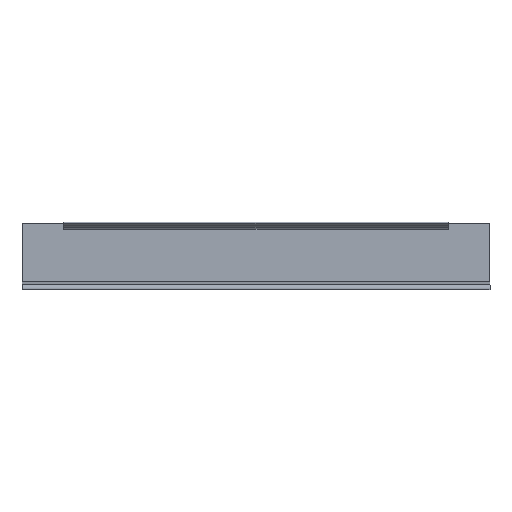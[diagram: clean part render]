
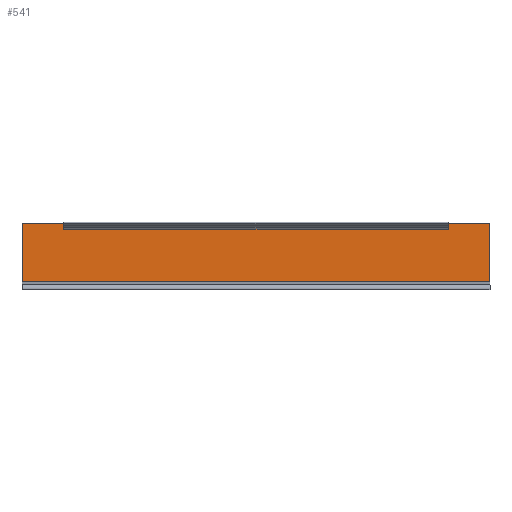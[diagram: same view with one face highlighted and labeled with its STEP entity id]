
A CAD part, left-side view. The second image highlights one B-rep face of the part: STEP entity #541.
In plain terms, the highlighted planar face has unit normal (-1, 0, 0).
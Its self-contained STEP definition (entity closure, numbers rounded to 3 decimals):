
#6 = LINE ( 'NONE', #305, #626 ) ;
#21 = VECTOR ( 'NONE', #335, 1000. ) ;
#22 = LINE ( 'NONE', #336, #21 ) ;
#23 = VECTOR ( 'NONE', #419, 1000. ) ;
#24 = LINE ( 'NONE', #418, #23 ) ;
#40 = VECTOR ( 'NONE', #400, 1000. ) ;
#41 = LINE ( 'NONE', #402, #40 ) ;
#54 = EDGE_LOOP ( 'NONE', ( #67, #113, #165, #115, #72, #163, #164, #159 ) ) ;
#65 = VECTOR ( 'NONE', #381, 1000. ) ;
#67 = ORIENTED_EDGE ( 'NONE', *, *, #490, .F. ) ;
#72 = ORIENTED_EDGE ( 'NONE', *, *, #533, .F. ) ;
#79 = LINE ( 'NONE', #204, #65 ) ;
#113 = ORIENTED_EDGE ( 'NONE', *, *, #498, .T. ) ;
#115 = ORIENTED_EDGE ( 'NONE', *, *, #499, .F. ) ;
#159 = ORIENTED_EDGE ( 'NONE', *, *, #513, .T. ) ;
#163 = ORIENTED_EDGE ( 'NONE', *, *, #536, .T. ) ;
#164 = ORIENTED_EDGE ( 'NONE', *, *, #483, .T. ) ;
#165 = ORIENTED_EDGE ( 'NONE', *, *, #511, .F. ) ;
#169 = AXIS2_PLACEMENT_3D ( 'NONE', #241, #235, #234 ) ;
#182 = VECTOR ( 'NONE', #300, 1000. ) ;
#204 = CARTESIAN_POINT ( 'NONE',  ( 6.024, 379.5, -8.71 ) ) ;
#234 = DIRECTION ( 'NONE',  ( 0., 0., -1. ) ) ;
#235 = DIRECTION ( 'NONE',  ( -1., 0., 0. ) ) ;
#241 = CARTESIAN_POINT ( 'NONE',  ( 6.024, 379.5, -9.925 ) ) ;
#244 = PLANE ( 'NONE',  #169 ) ;
#253 = DIRECTION ( 'NONE',  ( 0., 1., 0. ) ) ;
#254 = CARTESIAN_POINT ( 'NONE',  ( 6.024, 379.5, -4.106 ) ) ;
#258 = DIRECTION ( 'NONE',  ( 0., 0., -1. ) ) ;
#259 = CARTESIAN_POINT ( 'NONE',  ( 6.024, 345.5, -2.932 ) ) ;
#300 = DIRECTION ( 'NONE',  ( 0., -1., 0. ) ) ;
#303 = CARTESIAN_POINT ( 'NONE',  ( 6.024, 379.5, -51.31 ) ) ;
#304 = DIRECTION ( 'NONE',  ( 0., 0., 1. ) ) ;
#305 = CARTESIAN_POINT ( 'NONE',  ( 6.024, 34., -2.932 ) ) ;
#313 = CARTESIAN_POINT ( 'NONE',  ( 6.024, 379.5, -4.106 ) ) ;
#318 = VERTEX_POINT ( 'NONE', #313 ) ;
#320 = VERTEX_POINT ( 'NONE', #356 ) ;
#335 = DIRECTION ( 'NONE',  ( 0., -1., 0. ) ) ;
#336 = CARTESIAN_POINT ( 'NONE',  ( 6.024, 379.5, -8.71 ) ) ;
#344 = VERTEX_POINT ( 'NONE', #362 ) ;
#347 = VERTEX_POINT ( 'NONE', #358 ) ;
#350 = VERTEX_POINT ( 'NONE', #367 ) ;
#356 = CARTESIAN_POINT ( 'NONE',  ( 6.024, 34., -4.106 ) ) ;
#358 = CARTESIAN_POINT ( 'NONE',  ( 6.024, 379.5, -51.31 ) ) ;
#362 = CARTESIAN_POINT ( 'NONE',  ( 6.024, 0., -51.31 ) ) ;
#367 = CARTESIAN_POINT ( 'NONE',  ( 6.024, 345.5, -8.71 ) ) ;
#373 = CARTESIAN_POINT ( 'NONE',  ( 6.024, 345.5, -4.106 ) ) ;
#374 = CARTESIAN_POINT ( 'NONE',  ( 6.024, 34., -8.71 ) ) ;
#381 = DIRECTION ( 'NONE',  ( 0., 0., -1. ) ) ;
#391 = VERTEX_POINT ( 'NONE', #373 ) ;
#393 = VERTEX_POINT ( 'NONE', #374 ) ;
#396 = CARTESIAN_POINT ( 'NONE',  ( 6.024, 0., -4.106 ) ) ;
#400 = DIRECTION ( 'NONE',  ( 0., 0., -1. ) ) ;
#402 = CARTESIAN_POINT ( 'NONE',  ( 6.024, 0., -9.925 ) ) ;
#418 = CARTESIAN_POINT ( 'NONE',  ( 6.024, 379.5, -4.106 ) ) ;
#419 = DIRECTION ( 'NONE',  ( 0., 1., 0. ) ) ;
#427 = VERTEX_POINT ( 'NONE', #396 ) ;
#483 = EDGE_CURVE ( 'NONE', #318, #347, #79, .T. ) ;
#490 = EDGE_CURVE ( 'NONE', #427, #344, #41, .T. ) ;
#498 = EDGE_CURVE ( 'NONE', #427, #320, #24, .T. ) ;
#499 = EDGE_CURVE ( 'NONE', #350, #393, #22, .T. ) ;
#511 = EDGE_CURVE ( 'NONE', #393, #320, #6, .T. ) ;
#513 = EDGE_CURVE ( 'NONE', #347, #344, #619, .T. ) ;
#533 = EDGE_CURVE ( 'NONE', #391, #350, #576, .T. ) ;
#536 = EDGE_CURVE ( 'NONE', #391, #318, #580, .T. ) ;
#541 = ADVANCED_FACE ( 'NONE', ( #585 ), #244, .T. ) ;
#576 = LINE ( 'NONE', #259, #577 ) ;
#577 = VECTOR ( 'NONE', #258, 1000. ) ;
#580 = LINE ( 'NONE', #254, #581 ) ;
#581 = VECTOR ( 'NONE', #253, 1000. ) ;
#585 = FACE_OUTER_BOUND ( 'NONE', #54, .T. ) ;
#619 = LINE ( 'NONE', #303, #182 ) ;
#626 = VECTOR ( 'NONE', #304, 1000. ) ;
